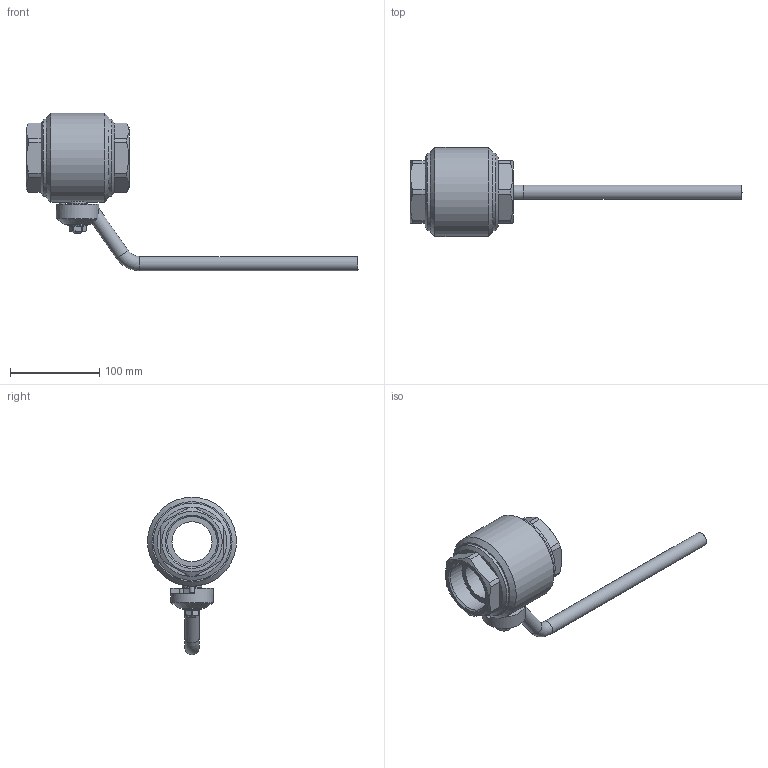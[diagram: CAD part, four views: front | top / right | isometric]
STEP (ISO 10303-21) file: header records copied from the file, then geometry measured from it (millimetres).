
FILE_DESCRIPTION(('STEP AP203'), '1');
FILE_NAME('ZARD 050.063.10.P_.stp', '2013-12-06T07:52:50', ('Øèøêî'), ('Ýíåðïðåä ßðäîñ'), 'ASCON STEP Converter 1.3', 'Kompas 3D', '');
FILE_SCHEMA(('CONFIG_CONTROL_DESIGN','SUPPORT_RESOURCE_SCHEMA'));
Length unit declared in the file: millimetre
Products named in the file (1): 184
Bounding box: 373.01 x 100 x 177 mm (x, y, z)
Volume: 535660.1 mm3; surface area: 94375.9 mm2
Topology: 1 solids, 8 shells, 190 faces, 423 edges, 261 vertices
Faces by surface type: plane 98, cylinder 61, cone 23, torus 8
Full cylindrical faces by diameter (mm): 6 x2, 10 x2, 16 x3, 21.8 x1, 22 x2, 45 x2, 48 x1, 56.656 x2, 73.4 x1, 87 x2, 100 x1
Entity records: 7409 total; most frequent: CARTESIAN_POINT 3077, DIRECTION 922, ORIENTED_EDGE 846, EDGE_CURVE 423, AXIS2_PLACEMENT_3D 364, VERTEX_POINT 261, EDGE_LOOP 210, LINE 194
